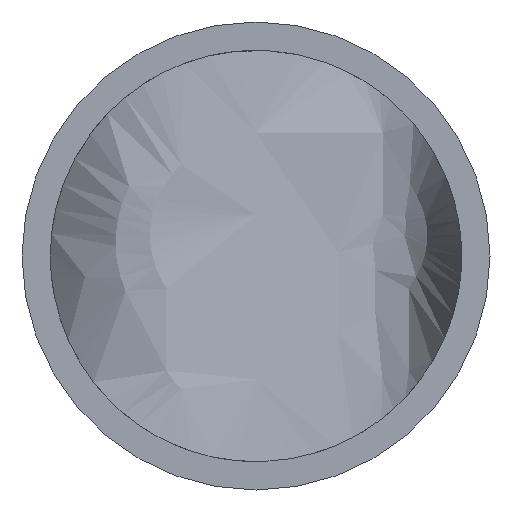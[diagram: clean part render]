
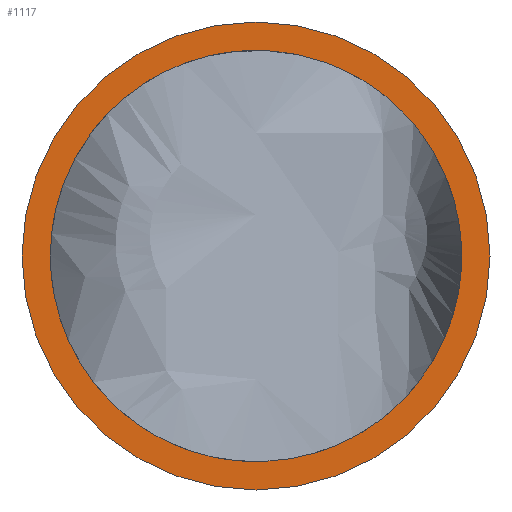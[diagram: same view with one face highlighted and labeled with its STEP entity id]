
A CAD part, front view. The second image highlights one B-rep face of the part: STEP entity #1117.
In plain terms, the highlighted planar face has unit normal (0, -1, 0).
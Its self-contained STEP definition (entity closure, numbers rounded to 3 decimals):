
#771=CARTESIAN_POINT('',(0.,-40.,0.));
#772=DIRECTION('',(0.,-1.,0.));
#773=DIRECTION('',(1.,0.,0.));
#774=AXIS2_PLACEMENT_3D('',#771,#772,#773);
#844=CARTESIAN_POINT('',(0.,-40.,0.));
#845=DIRECTION('',(0.,1.,0.));
#846=DIRECTION('',(1.,0.,0.));
#847=AXIS2_PLACEMENT_3D('',#844,#845,#846);
#859=CARTESIAN_POINT('',(0.,-40.,0.));
#860=DIRECTION('',(0.,1.,0.));
#861=DIRECTION('',(1.,0.,0.));
#862=AXIS2_PLACEMENT_3D('',#859,#860,#861);
#867=CARTESIAN_POINT('',(0.,-40.,0.));
#868=DIRECTION('',(0.,-1.,0.));
#869=DIRECTION('',(1.,0.,0.));
#870=AXIS2_PLACEMENT_3D('',#867,#868,#869);
#1017=CARTESIAN_POINT('',(3.3,-40.,0.));
#1018=VERTEX_POINT('',#1017);
#1025=CARTESIAN_POINT('',(-3.3,-40.,0.));
#1026=VERTEX_POINT('',#1025);
#1027=CARTESIAN_POINT('',(2.9,-40.,0.));
#1028=CARTESIAN_POINT('',(-2.9,-40.,0.));
#1029=VERTEX_POINT('',#1027);
#1030=VERTEX_POINT('',#1028);
#1102=CARTESIAN_POINT('',(0.,-40.,0.));
#1103=DIRECTION('',(0.,-1.,0.));
#1104=DIRECTION('',(-1.,0.,0.));
#1105=AXIS2_PLACEMENT_3D('',#1102,#1103,#1104);
#1106=PLANE('',#1105);
#1108=ORIENTED_EDGE('',*,*,#1107,.T.);
#1110=ORIENTED_EDGE('',*,*,#1109,.F.);
#1111=EDGE_LOOP('',(#1108,#1110));
#1112=FACE_OUTER_BOUND('',#1111,.F.);
#1113=ORIENTED_EDGE('',*,*,#1068,.T.);
#1114=ORIENTED_EDGE('',*,*,#1089,.F.);
#1115=EDGE_LOOP('',(#1113,#1114));
#1116=FACE_BOUND('',#1115,.F.);
#775=CIRCLE('',#774,2.9);
#848=CIRCLE('',#847,2.9);
#863=CIRCLE('',#862,3.3);
#871=CIRCLE('',#870,3.3);
#1068=EDGE_CURVE('',#1029,#1030,#775,.T.);
#1089=EDGE_CURVE('',#1029,#1030,#848,.T.);
#1107=EDGE_CURVE('',#1018,#1026,#863,.T.);
#1109=EDGE_CURVE('',#1018,#1026,#871,.T.);
#1117=ADVANCED_FACE('',(#1112,#1116),#1106,.T.);
